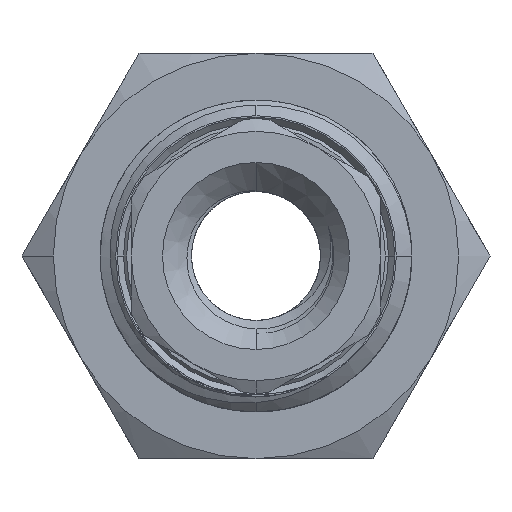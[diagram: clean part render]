
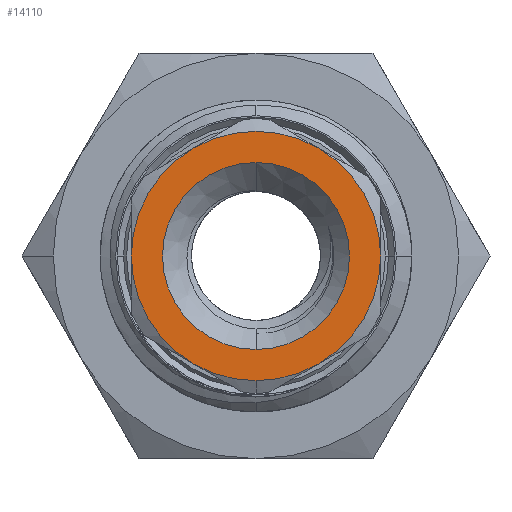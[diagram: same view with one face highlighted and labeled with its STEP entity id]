
A CAD part, front view. The second image highlights one B-rep face of the part: STEP entity #14110.
In plain terms, the highlighted planar face has unit normal (0, -1, 0).
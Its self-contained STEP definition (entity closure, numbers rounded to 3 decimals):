
#97 = AXIS2_PLACEMENT_3D ( 'NONE', #4217, #12771, #12544 ) ;
#317 = VERTEX_POINT ( 'NONE', #7815 ) ;
#502 = DIRECTION ( 'NONE',  ( -0.5, 0., -0.866 ) ) ;
#535 = ORIENTED_EDGE ( 'NONE', *, *, #5851, .F. ) ;
#591 = FACE_BOUND ( 'NONE', #14649, .T. ) ;
#692 = VERTEX_POINT ( 'NONE', #7105 ) ;
#744 = FACE_OUTER_BOUND ( 'NONE', #9314, .T. ) ;
#841 = VERTEX_POINT ( 'NONE', #14482 ) ;
#873 = CARTESIAN_POINT ( 'NONE',  ( 2., -22., -3.464 ) ) ;
#958 = EDGE_CURVE ( 'NONE', #1070, #11452, #15529, .T. ) ;
#1070 = VERTEX_POINT ( 'NONE', #873 ) ;
#1713 = ORIENTED_EDGE ( 'NONE', *, *, #958, .T. ) ;
#1909 = DIRECTION ( 'NONE',  ( 0., -1., 0. ) ) ;
#1993 = EDGE_CURVE ( 'NONE', #317, #10106, #3263, .T. ) ;
#2088 = DIRECTION ( 'NONE',  ( 0., -1., 0. ) ) ;
#2206 = DIRECTION ( 'NONE',  ( 0.5, 0., -0.866 ) ) ;
#2227 = AXIS2_PLACEMENT_3D ( 'NONE', #14014, #4347, #2206 ) ;
#2313 = ORIENTED_EDGE ( 'NONE', *, *, #7690, .T. ) ;
#2882 = CARTESIAN_POINT ( 'NONE',  ( 0., -22., 0. ) ) ;
#2967 = DIRECTION ( 'NONE',  ( 0., -1., 0. ) ) ;
#3228 = DIRECTION ( 'NONE',  ( 0., -1., 0. ) ) ;
#3263 = CIRCLE ( 'NONE', #13769, 3. ) ;
#3785 = CARTESIAN_POINT ( 'NONE',  ( -2., -22., 3.464 ) ) ;
#3858 = ORIENTED_EDGE ( 'NONE', *, *, #13836, .T. ) ;
#3985 = DIRECTION ( 'NONE',  ( 1., 0., 0. ) ) ;
#4094 = VERTEX_POINT ( 'NONE', #3785 ) ;
#4110 = VERTEX_POINT ( 'NONE', #5973 ) ;
#4200 = DIRECTION ( 'NONE',  ( 0., -1., 0. ) ) ;
#4217 = CARTESIAN_POINT ( 'NONE',  ( 0., -22., 0. ) ) ;
#4340 = CARTESIAN_POINT ( 'NONE',  ( 0., -22., -4. ) ) ;
#4347 = DIRECTION ( 'NONE',  ( 0., -1., 0. ) ) ;
#4519 = CIRCLE ( 'NONE', #13308, 3. ) ;
#4573 = CARTESIAN_POINT ( 'NONE',  ( 0., -22., 0. ) ) ;
#5146 = AXIS2_PLACEMENT_3D ( 'NONE', #11620, #3228, #13761 ) ;
#5393 = CARTESIAN_POINT ( 'NONE',  ( 0., -22., 3. ) ) ;
#5448 = CARTESIAN_POINT ( 'NONE',  ( 4., -22., 0. ) ) ;
#5494 = DIRECTION ( 'NONE',  ( 0., -1., 0. ) ) ;
#5532 = DIRECTION ( 'NONE',  ( 0., -1., 0. ) ) ;
#5622 = CARTESIAN_POINT ( 'NONE',  ( 0., -22., 0. ) ) ;
#5851 = EDGE_CURVE ( 'NONE', #10106, #317, #4519, .T. ) ;
#5973 = CARTESIAN_POINT ( 'NONE',  ( -2., -22., -3.464 ) ) ;
#6260 = ORIENTED_EDGE ( 'NONE', *, *, #6424, .T. ) ;
#6424 = EDGE_CURVE ( 'NONE', #4110, #10427, #7752, .T. ) ;
#6496 = CARTESIAN_POINT ( 'NONE',  ( 0., -22., 0. ) ) ;
#6636 = CARTESIAN_POINT ( 'NONE',  ( 0., -22., 0. ) ) ;
#6648 = AXIS2_PLACEMENT_3D ( 'NONE', #2882, #1909, #3985 ) ;
#6894 = DIRECTION ( 'NONE',  ( 0., 0., 1. ) ) ;
#6932 = AXIS2_PLACEMENT_3D ( 'NONE', #4573, #5532, #12902 ) ;
#7105 = CARTESIAN_POINT ( 'NONE',  ( -4., -22., 0. ) ) ;
#7690 = EDGE_CURVE ( 'NONE', #841, #4094, #12785, .T. ) ;
#7752 = CIRCLE ( 'NONE', #8502, 4. ) ;
#7815 = CARTESIAN_POINT ( 'NONE',  ( 0., -22., -3. ) ) ;
#7940 = CIRCLE ( 'NONE', #6932, 4. ) ;
#8060 = DIRECTION ( 'NONE',  ( 0., -1., 0. ) ) ;
#8502 = AXIS2_PLACEMENT_3D ( 'NONE', #6636, #4200, #502 ) ;
#9314 = EDGE_LOOP ( 'NONE', ( #13831, #11613, #6260, #10680, #1713, #3858, #2313 ) ) ;
#9583 = EDGE_CURVE ( 'NONE', #692, #4110, #14550, .T. ) ;
#10106 = VERTEX_POINT ( 'NONE', #5393 ) ;
#10427 = VERTEX_POINT ( 'NONE', #4340 ) ;
#10680 = ORIENTED_EDGE ( 'NONE', *, *, #13253, .T. ) ;
#11123 = DIRECTION ( 'NONE',  ( -1., 0., 0. ) ) ;
#11450 = CARTESIAN_POINT ( 'NONE',  ( 0., -22., 0. ) ) ;
#11452 = VERTEX_POINT ( 'NONE', #5448 ) ;
#11613 = ORIENTED_EDGE ( 'NONE', *, *, #9583, .T. ) ;
#11620 = CARTESIAN_POINT ( 'NONE',  ( 0., -22., 0. ) ) ;
#11652 = DIRECTION ( 'NONE',  ( 0.5, 0., 0.866 ) ) ;
#11890 = CIRCLE ( 'NONE', #5146, 4. ) ;
#12028 = AXIS2_PLACEMENT_3D ( 'NONE', #5622, #8060, #11652 ) ;
#12146 = CIRCLE ( 'NONE', #6648, 4. ) ;
#12544 = DIRECTION ( 'NONE',  ( 1., 0., 0. ) ) ;
#12771 = DIRECTION ( 'NONE',  ( 0., 1., 0. ) ) ;
#12785 = CIRCLE ( 'NONE', #12028, 4. ) ;
#12862 = CARTESIAN_POINT ( 'NONE',  ( 0., -22., 0. ) ) ;
#12902 = DIRECTION ( 'NONE',  ( -0.5, 0., 0.866 ) ) ;
#13253 = EDGE_CURVE ( 'NONE', #10427, #1070, #11890, .T. ) ;
#13307 = AXIS2_PLACEMENT_3D ( 'NONE', #6496, #2967, #11123 ) ;
#13308 = AXIS2_PLACEMENT_3D ( 'NONE', #12862, #2088, #6894 ) ;
#13728 = ORIENTED_EDGE ( 'NONE', *, *, #1993, .F. ) ;
#13761 = DIRECTION ( 'NONE',  ( -0.5, 0., -0.866 ) ) ;
#13769 = AXIS2_PLACEMENT_3D ( 'NONE', #11450, #5494, #15065 ) ;
#13831 = ORIENTED_EDGE ( 'NONE', *, *, #14967, .T. ) ;
#13836 = EDGE_CURVE ( 'NONE', #11452, #841, #12146, .T. ) ;
#14014 = CARTESIAN_POINT ( 'NONE',  ( 0., -22., 0. ) ) ;
#14110 = ADVANCED_FACE ( 'NONE', ( #591, #744 ), #14971, .F. ) ;
#14482 = CARTESIAN_POINT ( 'NONE',  ( 2., -22., 3.464 ) ) ;
#14550 = CIRCLE ( 'NONE', #13307, 4. ) ;
#14649 = EDGE_LOOP ( 'NONE', ( #13728, #535 ) ) ;
#14967 = EDGE_CURVE ( 'NONE', #4094, #692, #7940, .T. ) ;
#14971 = PLANE ( 'NONE',  #97 ) ;
#15065 = DIRECTION ( 'NONE',  ( 0., 0., -1. ) ) ;
#15529 = CIRCLE ( 'NONE', #2227, 4. ) ;
